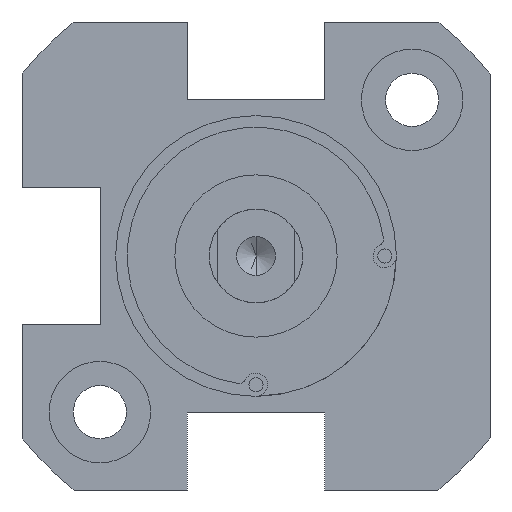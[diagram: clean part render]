
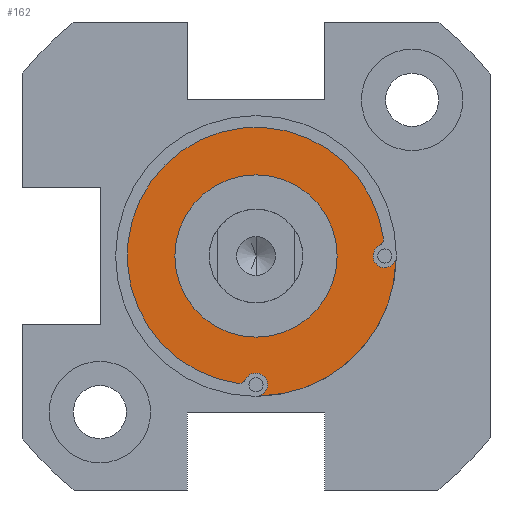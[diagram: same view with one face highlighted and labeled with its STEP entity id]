
A CAD part, front view. The second image highlights one B-rep face of the part: STEP entity #162.
In plain terms, the highlighted planar face has unit normal (0, -1, 0).
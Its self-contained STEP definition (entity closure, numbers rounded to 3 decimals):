
#13 = EDGE_CURVE ( 'NONE', #265, #1755, #3225, .T. ) ;
#24 = FACE_OUTER_BOUND ( 'NONE', #229, .T. ) ;
#29 = EDGE_CURVE ( 'NONE', #2313, #3021, #102, .T. ) ;
#102 = CIRCLE ( 'NONE', #1909, 0.5 ) ;
#162 = ADVANCED_FACE ( 'NONE', ( #24, #1837 ), #2352, .T. ) ;
#174 = EDGE_CURVE ( 'NONE', #2553, #2512, #340, .T. ) ;
#179 = CARTESIAN_POINT ( 'NONE',  ( 0., -31.5, -5.2 ) ) ;
#229 = EDGE_LOOP ( 'NONE', ( #1465, #855, #1539, #3034, #3129, #1886, #3165, #1733 ) ) ;
#265 = VERTEX_POINT ( 'NONE', #179 ) ;
#268 = CARTESIAN_POINT ( 'NONE',  ( -1.108, -31.5, -8.17 ) ) ;
#269 = CARTESIAN_POINT ( 'NONE',  ( 0., -31.5, 5.2 ) ) ;
#293 = DIRECTION ( 'NONE',  ( 0., 0., -1. ) ) ;
#340 = CIRCLE ( 'NONE', #1782, 0.75 ) ;
#342 = CARTESIAN_POINT ( 'NONE',  ( 8.25, -31.5, -0.75 ) ) ;
#555 = DIRECTION ( 'NONE',  ( 0., -1., 0. ) ) ;
#607 = CARTESIAN_POINT ( 'NONE',  ( 0., -31.5, -9. ) ) ;
#659 = AXIS2_PLACEMENT_3D ( 'NONE', #894, #1649, #943 ) ;
#660 = DIRECTION ( 'NONE',  ( 0., 1., 0. ) ) ;
#716 = EDGE_CURVE ( 'NONE', #2553, #2003, #1982, .T. ) ;
#736 = AXIS2_PLACEMENT_3D ( 'NONE', #2546, #1334, #1809 ) ;
#753 = CARTESIAN_POINT ( 'NONE',  ( 7.902, -31.5, 0.665 ) ) ;
#813 = CARTESIAN_POINT ( 'NONE',  ( 7.67, -31.5, 1.108 ) ) ;
#855 = ORIENTED_EDGE ( 'NONE', *, *, #2536, .T. ) ;
#874 = CARTESIAN_POINT ( 'NONE',  ( 0., -31.5, 0. ) ) ;
#879 = AXIS2_PLACEMENT_3D ( 'NONE', #1959, #955, #2460 ) ;
#894 = CARTESIAN_POINT ( 'NONE',  ( 0., -31.5, -8.25 ) ) ;
#896 = CIRCLE ( 'NONE', #879, 0.5 ) ;
#943 = DIRECTION ( 'NONE',  ( 0., 0., 1. ) ) ;
#955 = DIRECTION ( 'NONE',  ( 0., -1., 0. ) ) ;
#1104 = ORIENTED_EDGE ( 'NONE', *, *, #13, .T. ) ;
#1108 = CARTESIAN_POINT ( 'NONE',  ( 9., -31.5, 0. ) ) ;
#1128 = DIRECTION ( 'NONE',  ( 0., 0., 1. ) ) ;
#1334 = DIRECTION ( 'NONE',  ( 0., 1., 0. ) ) ;
#1377 = DIRECTION ( 'NONE',  ( 0., 0., 1. ) ) ;
#1465 = ORIENTED_EDGE ( 'NONE', *, *, #174, .T. ) ;
#1507 = AXIS2_PLACEMENT_3D ( 'NONE', #1873, #3094, #1377 ) ;
#1510 = CIRCLE ( 'NONE', #2812, 5.2 ) ;
#1539 = ORIENTED_EDGE ( 'NONE', *, *, #29, .T. ) ;
#1607 = DIRECTION ( 'NONE',  ( 0., 1., 0. ) ) ;
#1649 = DIRECTION ( 'NONE',  ( 0., 1., 0. ) ) ;
#1660 = DIRECTION ( 'NONE',  ( 0., 0., 1. ) ) ;
#1733 = ORIENTED_EDGE ( 'NONE', *, *, #716, .F. ) ;
#1755 = VERTEX_POINT ( 'NONE', #269 ) ;
#1766 = EDGE_LOOP ( 'NONE', ( #1104, #2528 ) ) ;
#1778 = CIRCLE ( 'NONE', #1507, 0.75 ) ;
#1782 = AXIS2_PLACEMENT_3D ( 'NONE', #2856, #1607, #2384 ) ;
#1799 = DIRECTION ( 'NONE',  ( 0., -1., 0. ) ) ;
#1801 = EDGE_CURVE ( 'NONE', #2436, #3038, #3092, .T. ) ;
#1809 = DIRECTION ( 'NONE',  ( 0., 0., 1. ) ) ;
#1837 = FACE_BOUND ( 'NONE', #1766, .T. ) ;
#1858 = AXIS2_PLACEMENT_3D ( 'NONE', #2524, #1799, #293 ) ;
#1866 = DIRECTION ( 'NONE',  ( 0., 1., 0. ) ) ;
#1869 = CARTESIAN_POINT ( 'NONE',  ( 0., -31.5, 0. ) ) ;
#1873 = CARTESIAN_POINT ( 'NONE',  ( 8.25, -31.5, 0. ) ) ;
#1881 = CARTESIAN_POINT ( 'NONE',  ( -0.665, -31.5, -7.902 ) ) ;
#1886 = ORIENTED_EDGE ( 'NONE', *, *, #2865, .T. ) ;
#1909 = AXIS2_PLACEMENT_3D ( 'NONE', #813, #555, #2307 ) ;
#1921 = DIRECTION ( 'NONE',  ( 0., 0., 1. ) ) ;
#1959 = CARTESIAN_POINT ( 'NONE',  ( -1.108, -31.5, -7.67 ) ) ;
#1982 = CIRCLE ( 'NONE', #2909, 9. ) ;
#2003 = VERTEX_POINT ( 'NONE', #607 ) ;
#2028 = EDGE_CURVE ( 'NONE', #2436, #3021, #3213, .T. ) ;
#2130 = DIRECTION ( 'NONE',  ( 0., -1., 0. ) ) ;
#2147 = AXIS2_PLACEMENT_3D ( 'NONE', #2629, #2130, #1128 ) ;
#2247 = EDGE_CURVE ( 'NONE', #1755, #265, #1510, .T. ) ;
#2307 = DIRECTION ( 'NONE',  ( 0., 0., -1. ) ) ;
#2313 = VERTEX_POINT ( 'NONE', #753 ) ;
#2352 = PLANE ( 'NONE',  #2147 ) ;
#2384 = DIRECTION ( 'NONE',  ( 0., 0., 1. ) ) ;
#2436 = VERTEX_POINT ( 'NONE', #2550 ) ;
#2460 = DIRECTION ( 'NONE',  ( 0., 0., -1. ) ) ;
#2484 = CARTESIAN_POINT ( 'NONE',  ( 8.165, -31.5, 1.179 ) ) ;
#2512 = VERTEX_POINT ( 'NONE', #342 ) ;
#2524 = CARTESIAN_POINT ( 'NONE',  ( -1.108, -31.5, -7.67 ) ) ;
#2528 = ORIENTED_EDGE ( 'NONE', *, *, #2247, .T. ) ;
#2536 = EDGE_CURVE ( 'NONE', #2512, #2313, #1778, .T. ) ;
#2546 = CARTESIAN_POINT ( 'NONE',  ( 0., -31.5, 0. ) ) ;
#2550 = CARTESIAN_POINT ( 'NONE',  ( -1.179, -31.5, -8.165 ) ) ;
#2553 = VERTEX_POINT ( 'NONE', #1108 ) ;
#2629 = CARTESIAN_POINT ( 'NONE',  ( 0., -31.5, 0. ) ) ;
#2678 = VERTEX_POINT ( 'NONE', #1881 ) ;
#2702 = EDGE_CURVE ( 'NONE', #2678, #2003, #2935, .T. ) ;
#2812 = AXIS2_PLACEMENT_3D ( 'NONE', #3198, #660, #1921 ) ;
#2856 = CARTESIAN_POINT ( 'NONE',  ( 8.25, -31.5, 0. ) ) ;
#2862 = DIRECTION ( 'NONE',  ( 0., 1., 0. ) ) ;
#2865 = EDGE_CURVE ( 'NONE', #3038, #2678, #896, .T. ) ;
#2873 = AXIS2_PLACEMENT_3D ( 'NONE', #874, #1866, #1660 ) ;
#2909 = AXIS2_PLACEMENT_3D ( 'NONE', #1869, #2862, #3128 ) ;
#2935 = CIRCLE ( 'NONE', #659, 0.75 ) ;
#3021 = VERTEX_POINT ( 'NONE', #2484 ) ;
#3034 = ORIENTED_EDGE ( 'NONE', *, *, #2028, .F. ) ;
#3038 = VERTEX_POINT ( 'NONE', #268 ) ;
#3092 = CIRCLE ( 'NONE', #1858, 0.5 ) ;
#3094 = DIRECTION ( 'NONE',  ( 0., 1., 0. ) ) ;
#3128 = DIRECTION ( 'NONE',  ( 0., 0., 1. ) ) ;
#3129 = ORIENTED_EDGE ( 'NONE', *, *, #1801, .T. ) ;
#3165 = ORIENTED_EDGE ( 'NONE', *, *, #2702, .T. ) ;
#3198 = CARTESIAN_POINT ( 'NONE',  ( 0., -31.5, 0. ) ) ;
#3213 = CIRCLE ( 'NONE', #2873, 8.25 ) ;
#3225 = CIRCLE ( 'NONE', #736, 5.2 ) ;
